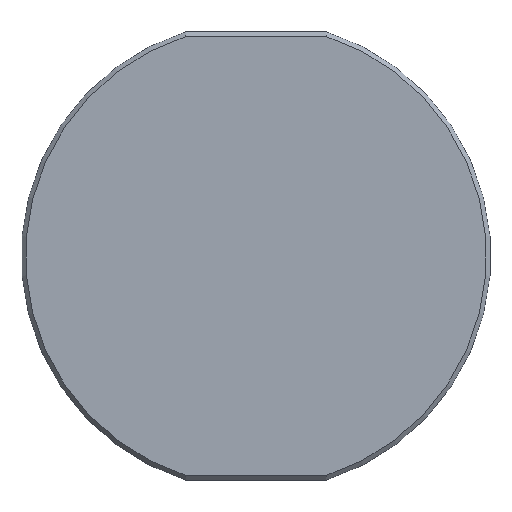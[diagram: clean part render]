
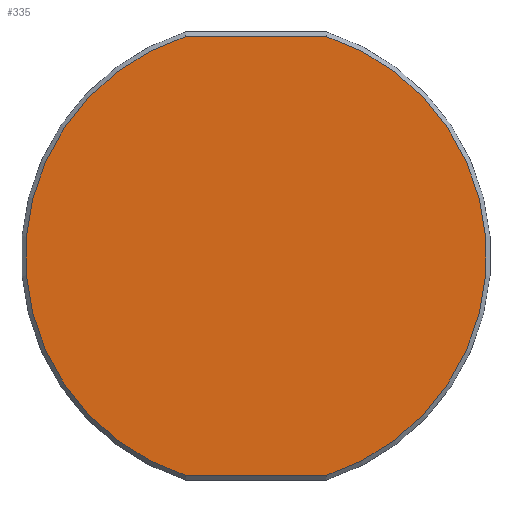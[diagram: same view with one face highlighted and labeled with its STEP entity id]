
A CAD part, top view. The second image highlights one B-rep face of the part: STEP entity #335.
In plain terms, the highlighted planar face has unit normal (0, 0, 1).
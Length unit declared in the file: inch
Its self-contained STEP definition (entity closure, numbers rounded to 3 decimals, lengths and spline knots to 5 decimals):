
#114=DIRECTION('',(-1.,0.,0.));
#115=VECTOR('',#114,0.96669);
#116=CARTESIAN_POINT('',(0.48335,1.52,
0.));
#117=LINE('',#116,#115);
#118=CARTESIAN_POINT('',(0.,0.,0.));
#119=DIRECTION('',(0.,0.,-1.));
#120=DIRECTION('',(0.303,0.953,0.));
#121=AXIS2_PLACEMENT_3D('',#118,#119,#120);
#123=DIRECTION('',(1.,0.,0.));
#124=VECTOR('',#123,0.96669);
#125=CARTESIAN_POINT('',(-0.48335,-1.52,
0.));
#126=LINE('',#125,#124);
#127=CARTESIAN_POINT('',(0.,0.,0.));
#128=DIRECTION('',(0.,0.,-1.));
#129=DIRECTION('',(-0.303,-0.953,0.));
#130=AXIS2_PLACEMENT_3D('',#127,#128,#129);
#162=CARTESIAN_POINT('',(0.48335,1.52,
0.));
#163=CARTESIAN_POINT('',(-0.48335,1.52,
0.));
#164=VERTEX_POINT('',#162);
#165=VERTEX_POINT('',#163);
#172=CARTESIAN_POINT('',(0.48335,-1.52,0.));
#173=VERTEX_POINT('',#172);
#176=CARTESIAN_POINT('',(-0.48335,-1.52,
0.));
#177=VERTEX_POINT('',#176);
#321=CARTESIAN_POINT('',(0.,0.,0.));
#322=DIRECTION('',(0.,0.,-1.));
#323=DIRECTION('',(-1.,0.,0.));
#324=AXIS2_PLACEMENT_3D('',#321,#322,#323);
#325=PLANE('',#324);
#326=ORIENTED_EDGE('',*,*,#311,.F.);
#328=ORIENTED_EDGE('',*,*,#327,.T.);
#330=ORIENTED_EDGE('',*,*,#329,.F.);
#332=ORIENTED_EDGE('',*,*,#331,.T.);
#333=EDGE_LOOP('',(#326,#328,#330,#332));
#334=FACE_OUTER_BOUND('',#333,.F.);
#335=ADVANCED_FACE('',(#334),#325,.F.);
#122=CIRCLE('',#121,1.595);
#131=CIRCLE('',#130,1.595);
#311=EDGE_CURVE('',#164,#165,#117,.T.);
#327=EDGE_CURVE('',#164,#173,#122,.T.);
#329=EDGE_CURVE('',#177,#173,#126,.T.);
#331=EDGE_CURVE('',#177,#165,#131,.T.);
